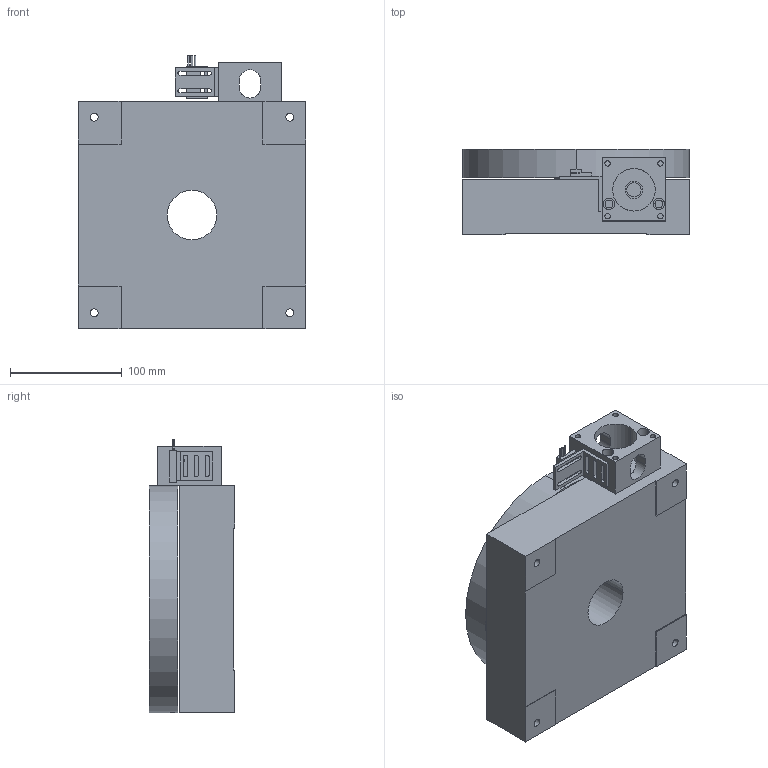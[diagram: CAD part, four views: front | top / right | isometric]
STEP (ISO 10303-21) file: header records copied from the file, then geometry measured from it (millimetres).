
FILE_DESCRIPTION((''),'2;1');
FILE_NAME('M20802RT-T3_ASM','2005-02-18T',('BF20108'),(''),'PRO/ENGINEER BY PARAMETRIC TECHNOLOGY CORPORATION, 2004400','PRO/ENGINEER BY PARAMETRIC TECHNOLOGY CORPORATION, 2004400','');
FILE_SCHEMA(('CONFIG_CONTROL_DESIGN'));
Products named in the file (7): M8RO-BASE; M8RO-TOP-T3; M23-MB-01; 000-4457-SW-BRKT; 003-1145-SWITCH; ROTARY-TBL-HOME-SW_ASM; M20802RT-T3_ASM
Assembly tree (6 placements, depth 3):
  M20802RT-T3_ASM
    M8RO-BASE
    M8RO-TOP-T3
    M23-MB-01
    ROTARY-TBL-HOME-SW_ASM
      000-4457-SW-BRKT
      003-1145-SWITCH
Bounding box: 203.2 x 76.2 x 244.43 mm (x, y, z)
Volume: 2761828.9 mm3; surface area: 245502.8 mm2
Topology: 5 solids, 5 shells, 164 faces, 427 edges, 284 vertices
Faces by surface type: cylinder 90, plane 74
Entity records: 5492 total; most frequent: CARTESIAN_POINT 990, DIRECTION 951, ORIENTED_EDGE 854, EDGE_CURVE 427, AXIS2_PLACEMENT_3D 355, VERTEX_POINT 284, VECTOR 241, LINE 241
